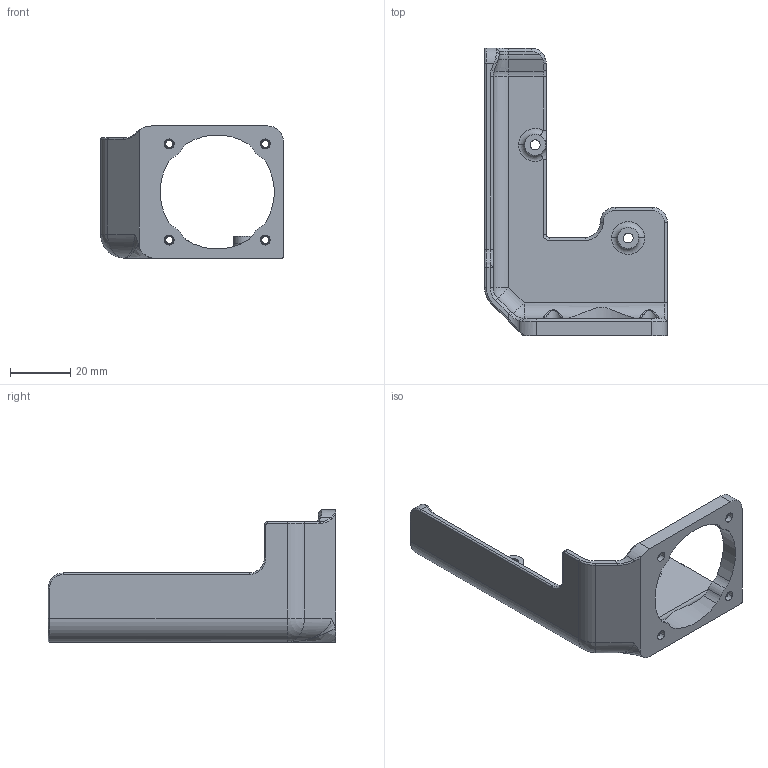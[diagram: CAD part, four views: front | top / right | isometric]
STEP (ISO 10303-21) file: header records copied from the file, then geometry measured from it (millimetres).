
FILE_DESCRIPTION(('CATIA V5 STEP Exchange'),'2;1');
FILE_NAME('E:\Dropbox\3D Printer Fan Duct Designs\1.) Artillery Sidewinder X1\3D Models\5015 Double Ducts\HEMERA MATRIX\BONUS_CLIP_DOUBLE FAN\COVER_MOTOR_DOUBLE-FAN\Cover Motor With Fan_Insert.stp','2022-01-08T19:38:53+00:00',('none'),('none'),'CATIA Version 5 Release 20 SP 1 (IN-10)','CATIA V5 STEP AP214','none');
FILE_SCHEMA(('AUTOMOTIVE_DESIGN { 1 0 10303 214 1 1 1 1 }'));
Products named in the file (1): COVER_MOTORE_ESTRUSORE
Bounding box: 60.8 x 95.8 x 44 mm (x, y, z)
Volume: 20868.2 mm3; surface area: 15776.4 mm2
Topology: 5 solids, 5 shells, 2134 faces, 5682 edges, 3576 vertices
Faces by surface type: bspline 1436, cylinder 488, plane 121, cone 53, torus 20, extrusion 11, sphere 5
Entity records: 67957 total; most frequent: CARTESIAN_POINT 31550, ORIENTED_EDGE 11352, EDGE_CURVE 5676, VERTEX_POINT 3576, DIRECTION 2915, EDGE_LOOP 2180, ADVANCED_FACE 2134, FACE_OUTER_BOUND 2134
